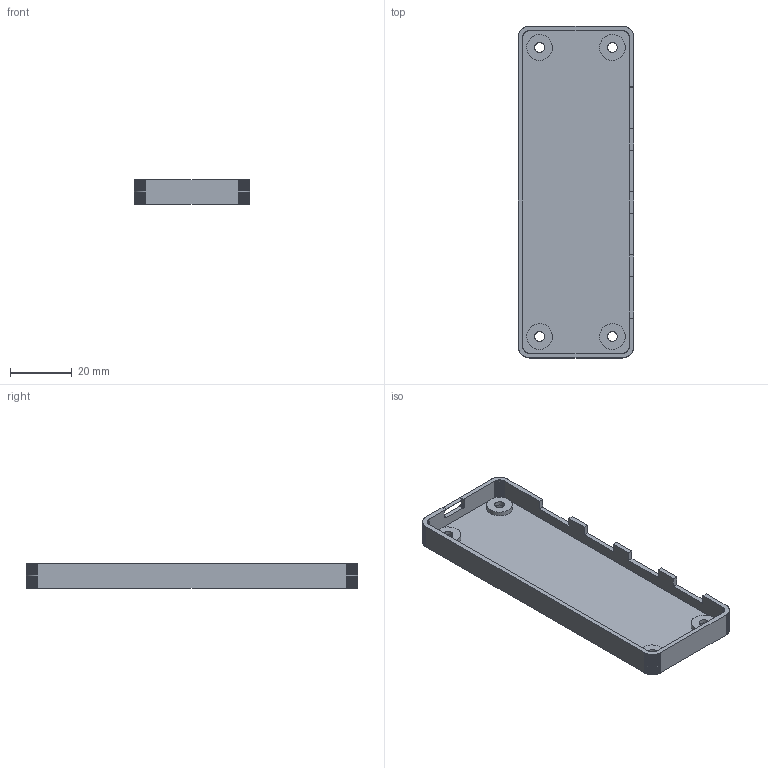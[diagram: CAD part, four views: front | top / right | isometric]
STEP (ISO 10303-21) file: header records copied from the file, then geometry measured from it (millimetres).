
FILE_DESCRIPTION(('Designed by EasyEDA Pro'),'2;1');
FILE_NAME('Open CASCADE Shape Model','2026-10-27T09:58:12',('Author'),( 'Open CASCADE'),'Open CASCADE STEP processor 7.8','Open CASCADE 7.8' ,'Unknown');
FILE_SCHEMA(('AUTOMOTIVE_DESIGN { 1 0 10303 214 1 1 1 1 }'));
Length unit declared in the file: millimetre
Products named in the file (1): Open CASCADE STEP translator 7.8 2
Bounding box: 37.5 x 107.5 x 8 mm (x, y, z)
Volume: 8560.2 mm3; surface area: 12037.4 mm2
Topology: 1 solids, 1 shells, 326 faces, 948 edges, 632 vertices
Faces by surface type: bspline 326
Entity records: 20486 total; most frequent: CARTESIAN_POINT 8129, B_SPLINE_CURVE_WITH_KNOTS 2796, ORIENTED_EDGE 1896, PCURVE 1896, DEFINITIONAL_REPRESENTATION 1896, EDGE_CURVE 948, SURFACE_CURVE 936, VERTEX_POINT 632
